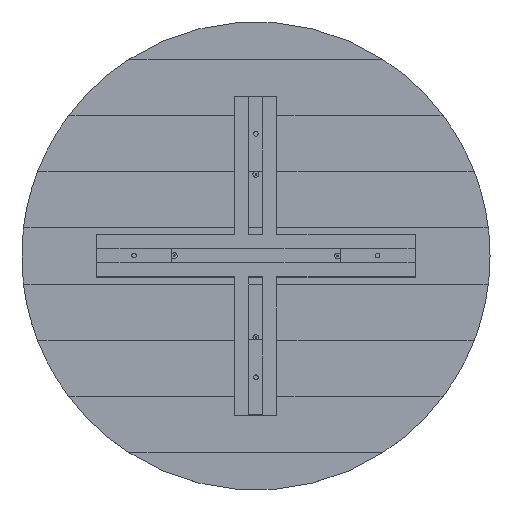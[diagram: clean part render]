
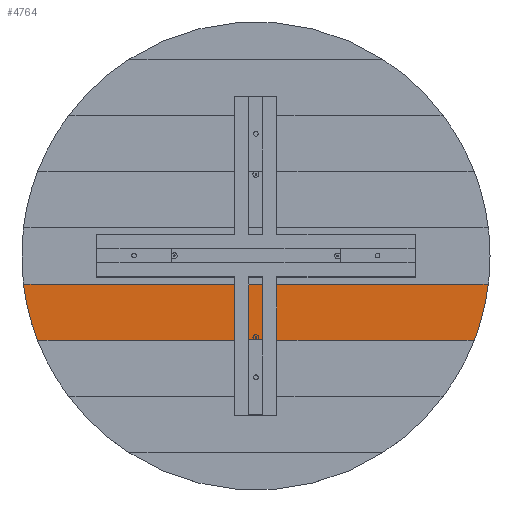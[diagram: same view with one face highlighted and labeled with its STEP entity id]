
A CAD part, top view. The second image highlights one B-rep face of the part: STEP entity #4764.
In plain terms, the highlighted planar face has unit normal (0, 0, 1).
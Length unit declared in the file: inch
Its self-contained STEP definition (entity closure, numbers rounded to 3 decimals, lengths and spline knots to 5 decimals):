
#87 = LINE ( 'NONE', #8870, #4578 ) ;
#116 = VERTEX_POINT ( 'NONE', #6789 ) ;
#155 = CARTESIAN_POINT ( 'NONE',  ( 47.72959, 28.97998, 43.42785 ) ) ;
#258 = CARTESIAN_POINT ( 'NONE',  ( 45.78936, 28.97998, 43.42785 ) ) ;
#559 = CARTESIAN_POINT ( 'NONE',  ( -1.09422, 22.97998, 43.42785 ) ) ;
#728 = VERTEX_POINT ( 'NONE', #2607 ) ;
#865 = DIRECTION ( 'NONE',  ( 0., 0., 1. ) ) ;
#989 = CARTESIAN_POINT ( 'NONE',  ( 47.72959, 22.97998, 43.42785 ) ) ;
#1016 = ORIENTED_EDGE ( 'NONE', *, *, #2115, .T. ) ;
#1389 = EDGE_CURVE ( 'NONE', #8947, #10569, #2896, .T. ) ;
#1483 = CARTESIAN_POINT ( 'NONE',  ( 22.22959, 25.97998, 43.42785 ) ) ;
#1692 = CARTESIAN_POINT ( 'NONE',  ( 47.72959, 22.97998, 43.42785 ) ) ;
#1823 = CARTESIAN_POINT ( 'NONE',  ( 22.22959, 31.97998, 43.42785 ) ) ;
#2115 = EDGE_CURVE ( 'NONE', #10539, #8507, #4910, .T. ) ;
#2313 = CARTESIAN_POINT ( 'NONE',  ( 21.91709, 22.97998, 43.42785 ) ) ;
#2336 = VECTOR ( 'NONE', #3403, 39.37008 ) ;
#2521 = VERTEX_POINT ( 'NONE', #559 ) ;
#2551 = LINE ( 'NONE', #989, #2336 ) ;
#2607 = CARTESIAN_POINT ( 'NONE',  ( 0.25091, 22.97998, 43.42785 ) ) ;
#2608 = CARTESIAN_POINT ( 'NONE',  ( 47.72959, 22.97998, 43.42785 ) ) ;
#2645 = VECTOR ( 'NONE', #9961, 39.37008 ) ;
#2677 = AXIS2_PLACEMENT_3D ( 'NONE', #1823, #7647, #6687 ) ;
#2818 = CARTESIAN_POINT ( 'NONE',  ( 47.72959, 28.97998, 43.42785 ) ) ;
#2833 = EDGE_CURVE ( 'NONE', #8507, #9578, #87, .T. ) ;
#2896 = CIRCLE ( 'NONE', #3223, 25. ) ;
#3189 = EDGE_CURVE ( 'NONE', #728, #10539, #2551, .T. ) ;
#3191 = EDGE_CURVE ( 'NONE', #9578, #8947, #7493, .T. ) ;
#3215 = EDGE_CURVE ( 'NONE', #3761, #2521, #4407, .T. ) ;
#3223 = AXIS2_PLACEMENT_3D ( 'NONE', #7639, #865, #6615 ) ;
#3224 = DIRECTION ( 'NONE',  ( 0., 0., 1. ) ) ;
#3249 = DIRECTION ( 'NONE',  ( 1., 0., 0. ) ) ;
#3332 = EDGE_CURVE ( 'NONE', #10569, #5648, #10276, .T. ) ;
#3398 = CARTESIAN_POINT ( 'NONE',  ( 47.72959, 28.97998, 43.42785 ) ) ;
#3403 = DIRECTION ( 'NONE',  ( 1., 0., 0. ) ) ;
#3750 = ORIENTED_EDGE ( 'NONE', *, *, #1389, .T. ) ;
#3761 = VERTEX_POINT ( 'NONE', #5291 ) ;
#3808 = ORIENTED_EDGE ( 'NONE', *, *, #3215, .T. ) ;
#3974 = ORIENTED_EDGE ( 'NONE', *, *, #4741, .T. ) ;
#4038 = AXIS2_PLACEMENT_3D ( 'NONE', #1483, #3224, #4805 ) ;
#4048 = CARTESIAN_POINT ( 'NONE',  ( 47.72959, 22.97998, 43.42785 ) ) ;
#4407 = CIRCLE ( 'NONE', #2677, 25. ) ;
#4578 = VECTOR ( 'NONE', #3249, 39.37008 ) ;
#4741 = EDGE_CURVE ( 'NONE', #2521, #728, #6425, .T. ) ;
#4760 = DIRECTION ( 'NONE',  ( 1., 0., 0. ) ) ;
#4764 = ADVANCED_FACE ( 'NONE', ( #8991 ), #4864, .T. ) ;
#4805 = DIRECTION ( 'NONE',  ( 0., -1., 0. ) ) ;
#4836 = ORIENTED_EDGE ( 'NONE', *, *, #8898, .T. ) ;
#4864 = PLANE ( 'NONE',  #4038 ) ;
#4910 = LINE ( 'NONE', #4048, #5739 ) ;
#5291 = CARTESIAN_POINT ( 'NONE',  ( -2.58976, 28.97998, 43.42785 ) ) ;
#5343 = DIRECTION ( 'NONE',  ( -1., 0., 0. ) ) ;
#5648 = VERTEX_POINT ( 'NONE', #258 ) ;
#5739 = VECTOR ( 'NONE', #10378, 39.37008 ) ;
#5919 = EDGE_CURVE ( 'NONE', #116, #3761, #10027, .T. ) ;
#6133 = CARTESIAN_POINT ( 'NONE',  ( 45.5534, 22.97998, 43.42785 ) ) ;
#6425 = LINE ( 'NONE', #1692, #10545 ) ;
#6615 = DIRECTION ( 'NONE',  ( -1., 0., 0. ) ) ;
#6627 = DIRECTION ( 'NONE',  ( 1., 0., 0. ) ) ;
#6687 = DIRECTION ( 'NONE',  ( -1., 0., 0. ) ) ;
#6789 = CARTESIAN_POINT ( 'NONE',  ( -1.33017, 28.97998, 43.42785 ) ) ;
#7097 = CARTESIAN_POINT ( 'NONE',  ( 22.54209, 22.97998, 43.42785 ) ) ;
#7406 = DIRECTION ( 'NONE',  ( -1., 0., 0. ) ) ;
#7493 = LINE ( 'NONE', #2608, #9206 ) ;
#7564 = ORIENTED_EDGE ( 'NONE', *, *, #3332, .T. ) ;
#7595 = CARTESIAN_POINT ( 'NONE',  ( 44.20827, 22.97998, 43.42785 ) ) ;
#7639 = CARTESIAN_POINT ( 'NONE',  ( 22.22959, 31.97998, 43.42785 ) ) ;
#7647 = DIRECTION ( 'NONE',  ( 0., 0., 1. ) ) ;
#8450 = VECTOR ( 'NONE', #7406, 39.37008 ) ;
#8507 = VERTEX_POINT ( 'NONE', #7097 ) ;
#8753 = ORIENTED_EDGE ( 'NONE', *, *, #5919, .T. ) ;
#8870 = CARTESIAN_POINT ( 'NONE',  ( 47.72959, 22.97998, 43.42785 ) ) ;
#8898 = EDGE_CURVE ( 'NONE', #5648, #116, #10540, .T. ) ;
#8947 = VERTEX_POINT ( 'NONE', #6133 ) ;
#8991 = FACE_OUTER_BOUND ( 'NONE', #9908, .T. ) ;
#9033 = VECTOR ( 'NONE', #5343, 39.37008 ) ;
#9206 = VECTOR ( 'NONE', #6627, 39.37008 ) ;
#9386 = ORIENTED_EDGE ( 'NONE', *, *, #3189, .T. ) ;
#9539 = ORIENTED_EDGE ( 'NONE', *, *, #2833, .T. ) ;
#9578 = VERTEX_POINT ( 'NONE', #7595 ) ;
#9704 = ORIENTED_EDGE ( 'NONE', *, *, #3191, .T. ) ;
#9908 = EDGE_LOOP ( 'NONE', ( #1016, #9539, #9704, #3750, #7564, #4836, #8753, #3808, #3974, #9386 ) ) ;
#9961 = DIRECTION ( 'NONE',  ( -1., 0., 0. ) ) ;
#10027 = LINE ( 'NONE', #3398, #2645 ) ;
#10276 = LINE ( 'NONE', #2818, #9033 ) ;
#10378 = DIRECTION ( 'NONE',  ( 1., 0., 0. ) ) ;
#10421 = CARTESIAN_POINT ( 'NONE',  ( 47.04894, 28.97998, 43.42785 ) ) ;
#10539 = VERTEX_POINT ( 'NONE', #2313 ) ;
#10540 = LINE ( 'NONE', #155, #8450 ) ;
#10545 = VECTOR ( 'NONE', #4760, 39.37008 ) ;
#10569 = VERTEX_POINT ( 'NONE', #10421 ) ;
